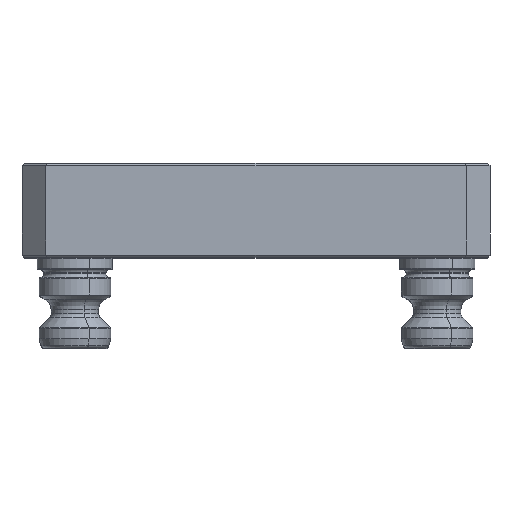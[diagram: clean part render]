
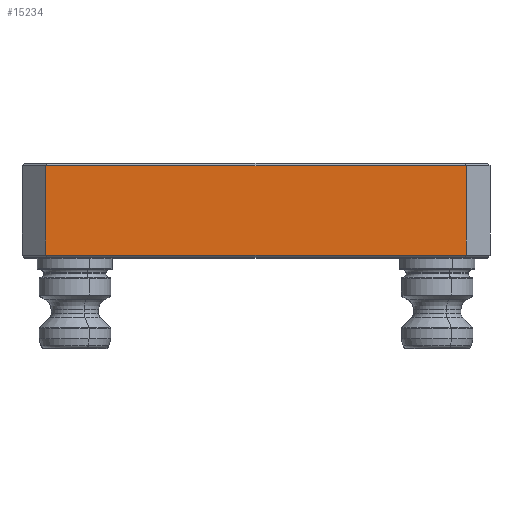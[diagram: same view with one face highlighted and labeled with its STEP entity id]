
A CAD part, top view. The second image highlights one B-rep face of the part: STEP entity #15234.
In plain terms, the highlighted planar face has unit normal (0, 0, 1).
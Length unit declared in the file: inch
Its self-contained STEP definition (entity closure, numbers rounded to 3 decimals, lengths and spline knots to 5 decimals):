
#4818 = CARTESIAN_POINT ( 'NONE',  ( 2.19094, 0.95925, 2.44094 ) ) ;
#6772 = VERTEX_POINT ( 'NONE', #43618 ) ;
#8696 = DIRECTION ( 'NONE',  ( -1., 0., 0. ) ) ;
#9560 = VERTEX_POINT ( 'NONE', #46630 ) ;
#10422 = DIRECTION ( 'NONE',  ( 0., 1., 0. ) ) ;
#13619 = CARTESIAN_POINT ( 'NONE',  ( -2.19094, 0.98425, 2.44094 ) ) ;
#15234 = ADVANCED_FACE ( 'NONE', ( #47765 ), #41162, .F. ) ;
#15248 = CARTESIAN_POINT ( 'NONE',  ( -2.44094, 0.98425, 2.44094 ) ) ;
#15853 = EDGE_CURVE ( 'NONE', #9560, #6772, #49545, .T. ) ;
#16506 = VECTOR ( 'NONE', #8696, 39.37008 ) ;
#17847 = LINE ( 'NONE', #47501, #16506 ) ;
#19602 = DIRECTION ( 'NONE',  ( -1., 0., 0. ) ) ;
#21026 = EDGE_LOOP ( 'NONE', ( #49087, #31560, #37109, #53416 ) ) ;
#21417 = EDGE_CURVE ( 'NONE', #6772, #54954, #38892, .T. ) ;
#21864 = VERTEX_POINT ( 'NONE', #34937 ) ;
#21915 = EDGE_CURVE ( 'NONE', #54954, #21864, #17847, .T. ) ;
#25814 = VECTOR ( 'NONE', #53354, 39.37008 ) ;
#31560 = ORIENTED_EDGE ( 'NONE', *, *, #15853, .T. ) ;
#34601 = CARTESIAN_POINT ( 'NONE',  ( 2.19094, 0.98425, 2.44094 ) ) ;
#34937 = CARTESIAN_POINT ( 'NONE',  ( -2.19094, 0.95925, 2.44094 ) ) ;
#35701 = CARTESIAN_POINT ( 'NONE',  ( -2.44094, 0.025, 2.44094 ) ) ;
#36362 = AXIS2_PLACEMENT_3D ( 'NONE', #15248, #36407, #19602 ) ;
#36407 = DIRECTION ( 'NONE',  ( 0., 0., -1. ) ) ;
#37109 = ORIENTED_EDGE ( 'NONE', *, *, #21417, .T. ) ;
#37987 = DIRECTION ( 'NONE',  ( 0., -1., 0. ) ) ;
#38892 = LINE ( 'NONE', #34601, #39625 ) ;
#39212 = VECTOR ( 'NONE', #37987, 39.37008 ) ;
#39625 = VECTOR ( 'NONE', #10422, 39.37008 ) ;
#41162 = PLANE ( 'NONE',  #36362 ) ;
#43618 = CARTESIAN_POINT ( 'NONE',  ( 2.19094, 0.025, 2.44094 ) ) ;
#45318 = LINE ( 'NONE', #13619, #39212 ) ;
#46630 = CARTESIAN_POINT ( 'NONE',  ( -2.19094, 0.025, 2.44094 ) ) ;
#47501 = CARTESIAN_POINT ( 'NONE',  ( -2.19094, 0.95925, 2.44094 ) ) ;
#47765 = FACE_OUTER_BOUND ( 'NONE', #21026, .T. ) ;
#49087 = ORIENTED_EDGE ( 'NONE', *, *, #50720, .T. ) ;
#49545 = LINE ( 'NONE', #35701, #25814 ) ;
#50720 = EDGE_CURVE ( 'NONE', #21864, #9560, #45318, .T. ) ;
#53354 = DIRECTION ( 'NONE',  ( 1., 0., 0. ) ) ;
#53416 = ORIENTED_EDGE ( 'NONE', *, *, #21915, .T. ) ;
#54954 = VERTEX_POINT ( 'NONE', #4818 ) ;
